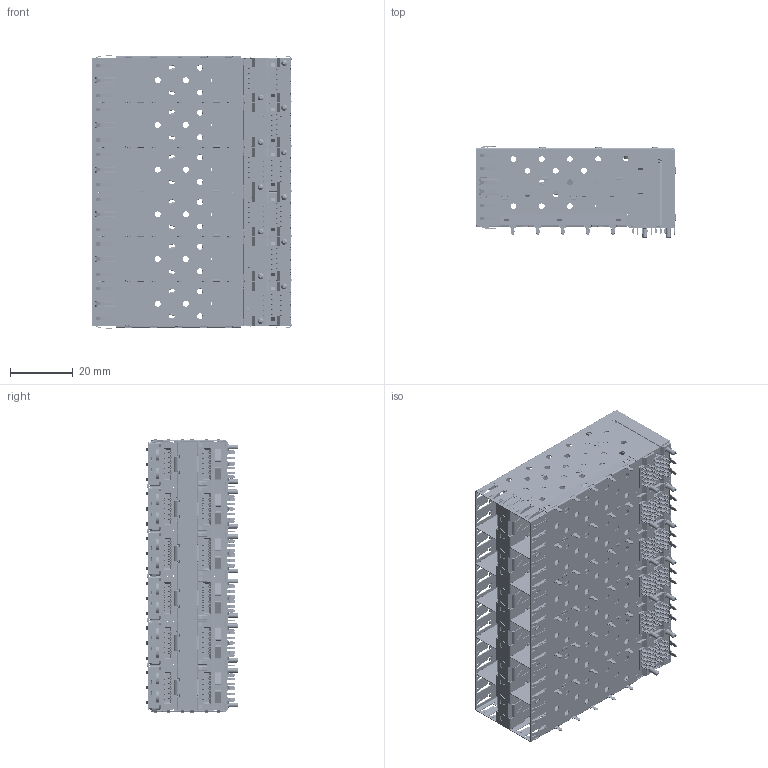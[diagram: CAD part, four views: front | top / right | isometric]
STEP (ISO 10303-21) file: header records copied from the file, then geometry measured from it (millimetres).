
FILE_DESCRIPTION (( 'STEP AP214' ), '1' );
FILE_NAME ('SAG0-0000310100-0000-X.STEP', '2021-06-15T06:34:05', ( '' ), ( '' ), 'SwSTEP 2.0', 'SolidWorks 2012', '' );
FILE_SCHEMA (( 'AUTOMOTIVE_DESIGN' ));
Products named in the file (44): SSA0-M210_SSA0-M21000XX 客戶3D-Type A-XIN; SSA0-M210-P_C TYPE; SSA0-M130 Conn+Lightpipe Ass''y-1_客戶3D  DUDU; SSA0-M220-P_D TYPE; SSD0-P130_for 4lightpipe-LED高度0.6 max(亮面+套筒; SSA0-C110_SSA0-C11002XX 客戶3D-Type C-XIN; SSA0-C110_SSA0-C11003XX 客戶3D-Type D-XIN; SSA0-M210-P; SSA0-M220_SSA0-M22001XX 客戶3D-Type B-GND; SSD0-P150; SSA0-C110_SSA0-C11001XX 客戶3D-Type B-GND; SSD0-P140_for 4Lightpipe-LED高度0.6 max(亮面+套筒); SSA0-M210_SSA0-M21001XX 客戶3D-Type B-XIN; SBD0-S140_w\DUDU lightpipe-stamp; SBG0-S120_SFP; SSA0-P110; SSA0-M220_SSA0-M22000XX 客戶3D-Type A-GND; SSA0-M220-P; SBG0-M110-1_pressfit 1.05-2.25-legs5-DUDU 4lightpipe; SAG0-0000310100-0000-X; SBA0-S130_組裝; SSA0-C110_SSA0-C11000XX 客戶3D-Type A-GND; SBD0-S140_w\DUDU lightpipe-left ass''y; SBG0-S110-1_2.25-Legs22-SFP hole+panel spring ass''y; SBD0-S130-1_pressfit 1.05-2.25-Legs5-ass''y; SBD0-S140_w\DUDU lightpipe-right ass''y
Assembly tree (55 placements, depth 4):
  SAG0-0000310100-0000-X
    SBG0-S110-1_2.25-Legs22-SFP hole+panel spring ass''y
    SBG0-M110-1_pressfit 1.05-2.25-legs5-DUDU 4lightpipe
      SBD0-S130-1_pressfit 1.05-2.25-Legs5-ass''y  x5
      SBD0-S140_w\DUDU lightpipe-left ass''y
      SBD0-S140_w\DUDU lightpipe-stamp  x4
      SBD0-S140_w\DUDU lightpipe-right ass''y
    SBG0-S120_SFP
    SSA0-M130 Conn+Lightpipe Ass''y-1_客戶3D  DUDU  x6
      SSA0-P110
      SBA0-S130_組裝
      SSA0-M220_SSA0-M22000XX 客戶3D-Type A-GND
        SSA0-M220-P
        SSA0-C110_SSA0-C11000XX 客戶3D-Type A-GND
      SSA0-M210_SSA0-M21001XX 客戶3D-Type B-XIN
        SSA0-M210-P
        SSA0-C110_SSA0-C11003XX 客戶3D-Type D-XIN
      SSA0-M210_SSA0-M21000XX 客戶3D-Type A-XIN
        SSA0-M210-P_C TYPE
        SSA0-C110_SSA0-C11002XX 客戶3D-Type C-XIN
      SSA0-M220_SSA0-M22001XX 客戶3D-Type B-GND
        SSA0-M220-P_D TYPE
        SSA0-C110_SSA0-C11001XX 客戶3D-Type B-GND
      SSA0-M210_SSA0-M21000XX 客戶3D-Type A-XIN
        SSA0-M210-P_C TYPE
        SSA0-C110_SSA0-C11002XX 客戶3D-Type C-XIN
      SSA0-M210_SSA0-M21001XX 客戶3D-Type B-XIN
        SSA0-M210-P
        SSA0-C110_SSA0-C11003XX 客戶3D-Type D-XIN
      SSA0-M220_SSA0-M22000XX 客戶3D-Type A-GND
        SSA0-M220-P
        SSA0-C110_SSA0-C11000XX 客戶3D-Type A-GND
      SSA0-M210_SSA0-M21001XX 客戶3D-Type B-XIN
        SSA0-M210-P
        SSA0-C110_SSA0-C11003XX 客戶3D-Type D-XIN
      SSA0-M210_SSA0-M21000XX 客戶3D-Type A-XIN
        SSA0-M210-P_C TYPE
        SSA0-C110_SSA0-C11002XX 客戶3D-Type C-XIN
      SSA0-M220_SSA0-M22001XX 客戶3D-Type B-GND
        SSA0-M220-P_D TYPE
        SSA0-C110_SSA0-C11001XX 客戶3D-Type B-GND
      SSD0-P130_for 4lightpipe-LED高度0.6 max(亮面+套筒
      SSD0-P140_for 4Lightpipe-LED高度0.6 max(亮面+套筒)
      SSD0-P150
Bounding box: 63.5 x 29.5 x 87.25 mm (x, y, z)
Volume: 34324.7 mm3; surface area: 133490.9 mm2
Topology: 763 solids, 763 shells, 48922 faces, 131112 edges, 83284 vertices
Faces by surface type: plane 33342, cylinder 14258, bspline 770, torus 384, cone 168
Entity records: 449843 total; most frequent: CARTESIAN_POINT 89957, ORIENTED_EDGE 75250, DIRECTION 74687, EDGE_CURVE 37625, VECTOR 26051, LINE 26051, AXIS2_PLACEMENT_3D 24318, VERTEX_POINT 23912
